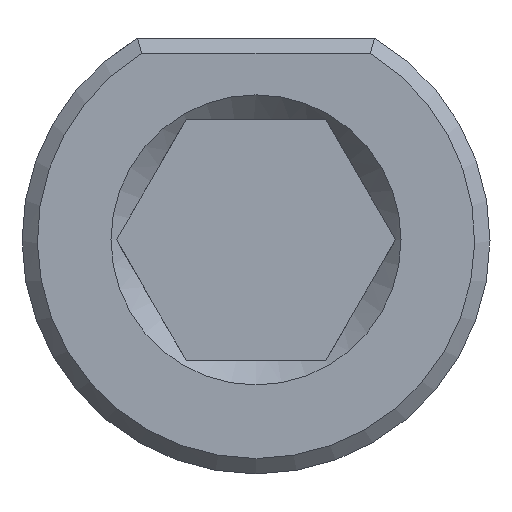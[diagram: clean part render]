
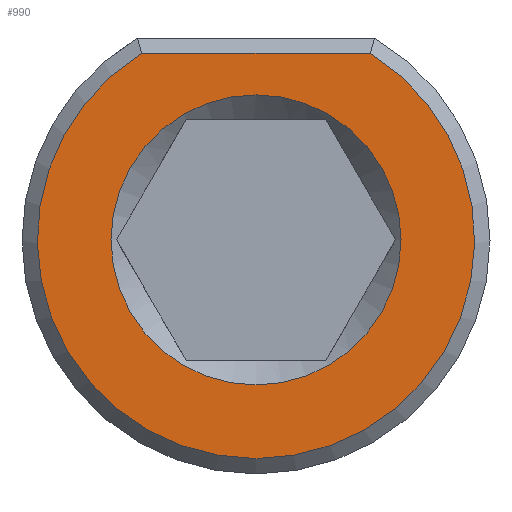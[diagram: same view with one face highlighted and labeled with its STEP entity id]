
A CAD part, front view. The second image highlights one B-rep face of the part: STEP entity #990.
In plain terms, the highlighted planar face has unit normal (0, -1, 0).
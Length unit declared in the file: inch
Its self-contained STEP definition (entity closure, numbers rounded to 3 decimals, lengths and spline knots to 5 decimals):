
#43=FACE_BOUND('',#244,.T.);
#59=PLANE('',#1109);
#115=CIRCLE('',#1106,0.285);
#117=CIRCLE('',#1110,0.189);
#185=FACE_OUTER_BOUND('',#243,.T.);
#243=EDGE_LOOP('',(#757,#758));
#244=EDGE_LOOP('',(#759));
#311=LINE('',#1766,#361);
#361=VECTOR('',#1298,0.3937);
#449=VERTEX_POINT('',#1764);
#450=VERTEX_POINT('',#1765);
#451=VERTEX_POINT('',#1781);
#565=EDGE_CURVE('',#449,#450,#311,.T.);
#569=EDGE_CURVE('',#450,#449,#115,.T.);
#571=EDGE_CURVE('',#451,#451,#117,.T.);
#757=ORIENTED_EDGE('',*,*,#565,.F.);
#758=ORIENTED_EDGE('',*,*,#569,.F.);
#759=ORIENTED_EDGE('',*,*,#571,.F.);
#990=ADVANCED_FACE('',(#185,#43),#59,.T.);
#1106=AXIS2_PLACEMENT_3D('',#1777,#1302,#1303);
#1109=AXIS2_PLACEMENT_3D('',#1780,#1308,#1309);
#1110=AXIS2_PLACEMENT_3D('',#1782,#1310,#1311);
#1298=DIRECTION('',(1.,0.,0.));
#1302=DIRECTION('center_axis',(0.,1.,0.));
#1303=DIRECTION('ref_axis',(0.,0.,-1.));
#1308=DIRECTION('center_axis',(0.,-1.,0.));
#1309=DIRECTION('ref_axis',(0.,0.,-1.));
#1310=DIRECTION('center_axis',(0.,-1.,0.));
#1311=DIRECTION('ref_axis',(0.,0.,1.));
#1764=CARTESIAN_POINT('',(-0.14892,0.,0.243));
#1765=CARTESIAN_POINT('',(0.14892,0.,0.243));
#1766=CARTESIAN_POINT('',(0.07723,0.,0.243));
#1777=CARTESIAN_POINT('Origin',(0.,0.,0.));
#1780=CARTESIAN_POINT('Origin',(0.,0.,-0.154));
#1781=CARTESIAN_POINT('',(0.,0.,-0.189));
#1782=CARTESIAN_POINT('Origin',(0.,0.,0.));
